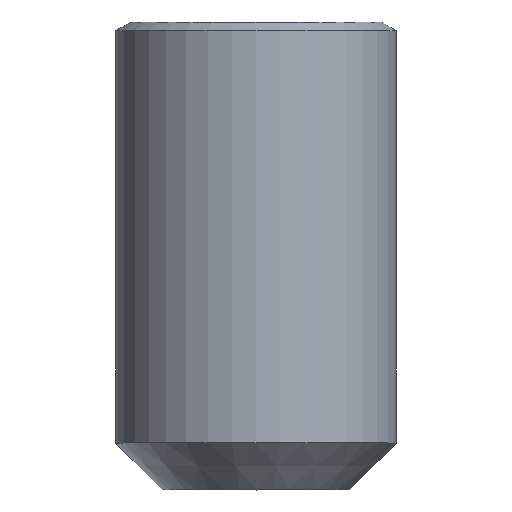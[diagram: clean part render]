
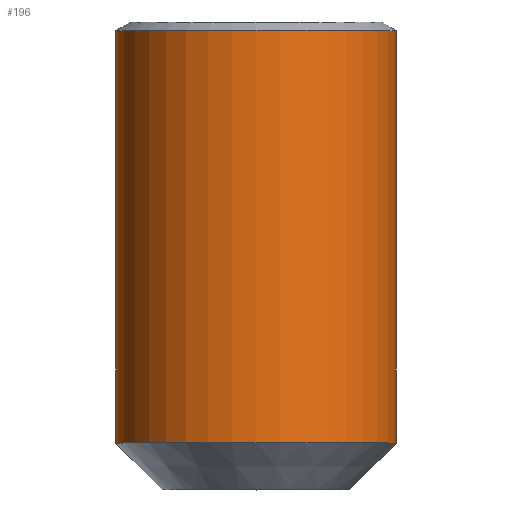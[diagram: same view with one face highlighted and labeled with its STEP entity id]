
A CAD part, top view. The second image highlights one B-rep face of the part: STEP entity #196.
In plain terms, the highlighted cylindrical face has radius 3 mm (diameter 6 mm), a full revolution.
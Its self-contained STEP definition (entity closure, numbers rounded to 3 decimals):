
#31=CYLINDRICAL_SURFACE('',#230,3.);
#33=FACE_OUTER_BOUND('',#45,.T.);
#45=EDGE_LOOP('',(#142,#143,#144,#145));
#58=LINE('',#303,#74);
#74=VECTOR('',#256,3.);
#90=CIRCLE('',#229,3.);
#91=CIRCLE('',#231,3.);
#94=VERTEX_POINT('',#297);
#95=VERTEX_POINT('',#301);
#113=EDGE_CURVE('',#94,#94,#90,.T.);
#114=EDGE_CURVE('',#95,#95,#91,.T.);
#115=EDGE_CURVE('',#95,#94,#58,.T.);
#142=ORIENTED_EDGE('',*,*,#114,.F.);
#143=ORIENTED_EDGE('',*,*,#115,.T.);
#144=ORIENTED_EDGE('',*,*,#113,.F.);
#145=ORIENTED_EDGE('',*,*,#115,.F.);
#196=ADVANCED_FACE('',(#33),#31,.T.);
#229=AXIS2_PLACEMENT_3D('',#299,#250,#251);
#230=AXIS2_PLACEMENT_3D('',#300,#252,#253);
#231=AXIS2_PLACEMENT_3D('',#302,#254,#255);
#250=DIRECTION('center_axis',(0.,-1.,0.));
#251=DIRECTION('ref_axis',(1.,0.,0.));
#252=DIRECTION('center_axis',(0.,1.,0.));
#253=DIRECTION('ref_axis',(1.,0.,0.));
#254=DIRECTION('center_axis',(0.,1.,0.));
#255=DIRECTION('ref_axis',(1.,0.,0.));
#256=DIRECTION('',(0.,-1.,0.));
#297=CARTESIAN_POINT('',(-3.,1.,0.));
#299=CARTESIAN_POINT('Origin',(0.,1.,0.));
#300=CARTESIAN_POINT('Origin',(0.,0.,0.));
#301=CARTESIAN_POINT('',(-3.,9.82,0.));
#302=CARTESIAN_POINT('Origin',(0.,9.82,0.));
#303=CARTESIAN_POINT('',(-3.,0.,0.));
